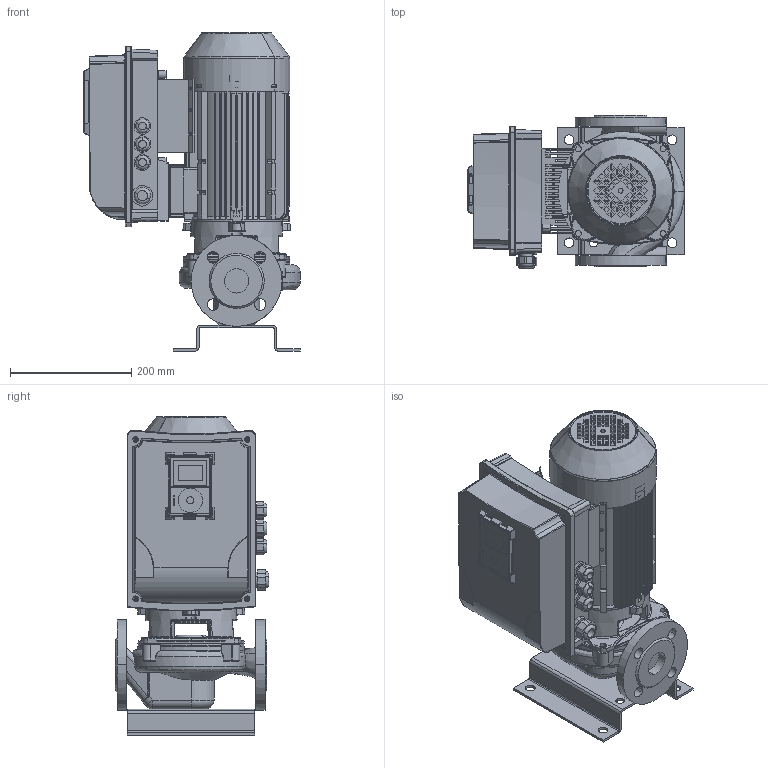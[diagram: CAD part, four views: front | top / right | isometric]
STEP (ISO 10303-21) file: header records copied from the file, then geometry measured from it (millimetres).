
FILE_DESCRIPTION(('STEP AP214'),'1');
FILE_NAME('export.stp','2018-06-04T07:48:51',(' '),(' '),'Spatial InterOp 3D',' ',' ');
FILE_SCHEMA(('AUTOMOTIVE_DESIGN { 1 0 10303 214 1 1 1 1 }'));
Length unit declared in the file: millimetre
Products named in the file (26): W_L40A2150_KPVS; V_TLAEAP3233L40A; V_PPL40A; 160035; 160008; V_MKP90-1-N13_VS; 480037; 480036___; 480039; 480038___; 160135; Vacon_MS2; G43699; Vacon20CP_MS2; MS2_bottom_final; P101407; MS2_cover_final; Vacon_Display; CAD-3D-VACON-M100-Display.sldasm; Vacon_display_pla; Vacon_display_scr; DIN_966-M5x10; M20_tiivisteholkk; M25_tiivisteholkk; SOVITUSPALA; V_JALKA35973
Assembly tree (30 placements, depth 6):
  W_L40A2150_KPVS
    V_TLAEAP3233L40A
    V_PPL40A
    V_MKP90-1-N13_VS
      160035
        160008
      480037
        480036___
      480039
        480038___
      160135
      Vacon_MS2
        G43699
        Vacon20CP_MS2
          MS2_bottom_final
          P101407
          MS2_cover_final
          Vacon_Display
            CAD-3D-VACON-M100-Display.sldasm
            Vacon_display_pla
            Vacon_display_scr
          DIN_966-M5x10  x4
          M20_tiivisteholkk  x3
          M25_tiivisteholkk
      SOVITUSPALA
    V_JALKA35973
Bounding box: 357.31 x 253.03 x 525.51 mm (x, y, z)
Volume: 5327208.4 mm3; surface area: 1923126.7 mm2
Topology: 22 solids, 1495 shells, 5089 faces, 17347 edges, 13726 vertices
Faces by surface type: bspline 1847, plane 1355, cylinder 1090, torus 470, cone 272, sphere 55
Entity records: 238876 total; most frequent: CARTESIAN_POINT 100351, ORIENTED_EDGE 25790, DIRECTION 17075, EDGE_CURVE 16717, VERTEX_POINT 13408, B_SPLINE_CURVE_WITH_KNOTS 7978, AXIS2_PLACEMENT_3D 6593, EDGE_LOOP 5349
